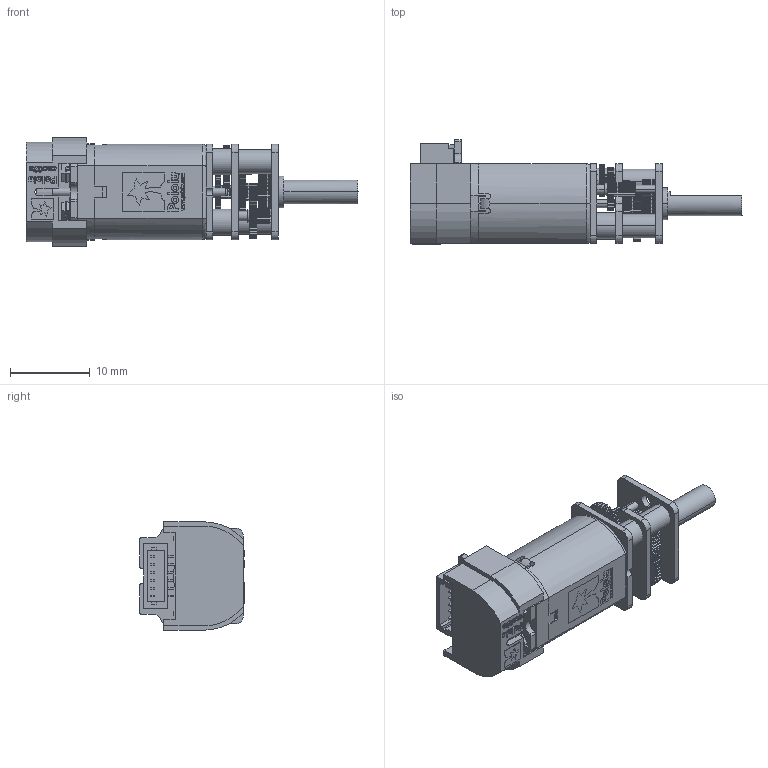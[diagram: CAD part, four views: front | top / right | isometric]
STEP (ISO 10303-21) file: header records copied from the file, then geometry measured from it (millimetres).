
FILE_DESCRIPTION (( 'STEP AP214' ), '1' );
FILE_NAME ('customer_step_mmgm_cas02_enc03c_2.STEP', '2024-04-26T23:58:58', ( '' ), ( '' ), 'SwSTEP 2.0', 'SolidWorks 2023', '' );
FILE_SCHEMA (( 'AUTOMOTIVE_DESIGN' ));
Length unit declared in the file: millimetre
Products named in the file (1): customer_step_mmgm_cas02_enc03c_2
Bounding box: 41.6 x 13.1 x 13.6 mm (x, y, z)
Volume: 2725.4 mm3; surface area: 3334.2 mm2
Topology: 1 solids, 5 shells, 2826 faces, 8351 edges, 5617 vertices
Faces by surface type: cylinder 1303, plane 1086, bspline 421, torus 10, cone 6
Entity records: 145655 total; most frequent: CARTESIAN_POINT 48365, ORIENTED_EDGE 16702, DIRECTION 9524, EDGE_CURVE 8351, VERTEX_POINT 5617, B_SPLINE_CURVE_WITH_KNOTS 4665, AXIS2_PLACEMENT_3D 3462, EDGE_LOOP 2974
